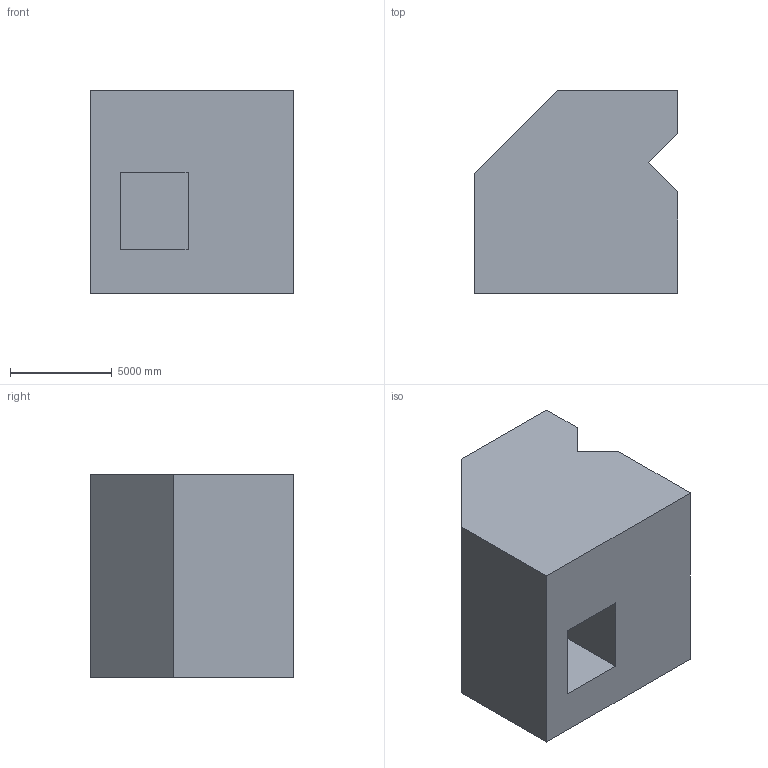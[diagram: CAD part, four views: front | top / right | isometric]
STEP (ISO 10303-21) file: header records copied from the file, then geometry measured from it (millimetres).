
FILE_DESCRIPTION (( 'STEP AP203' ), '1' );
FILE_NAME ('50.STEP', '2022-08-31T11:17:45', ( 'user' ), ( '' ), 'SwSTEP 2.0', 'SolidWorks 2021', '' );
FILE_SCHEMA (( 'CONFIG_CONTROL_DESIGN' ));
Length unit declared in the file: centimetre
Products named in the file (1): 50
Bounding box: 10000 x 10000 x 10000 mm (x, y, z)
Volume: 846163963778.4 mm3; surface area: 623123296.2 mm2
Topology: 1 solids, 1 shells, 15 faces, 36 edges, 24 vertices
Faces by surface type: plane 15
Entity records: 507 total; most frequent: CARTESIAN_POINT 76, ORIENTED_EDGE 72, DIRECTION 68, EDGE_CURVE 36, LINE 36, VECTOR 36, VERTEX_POINT 24, EDGE_LOOP 16
